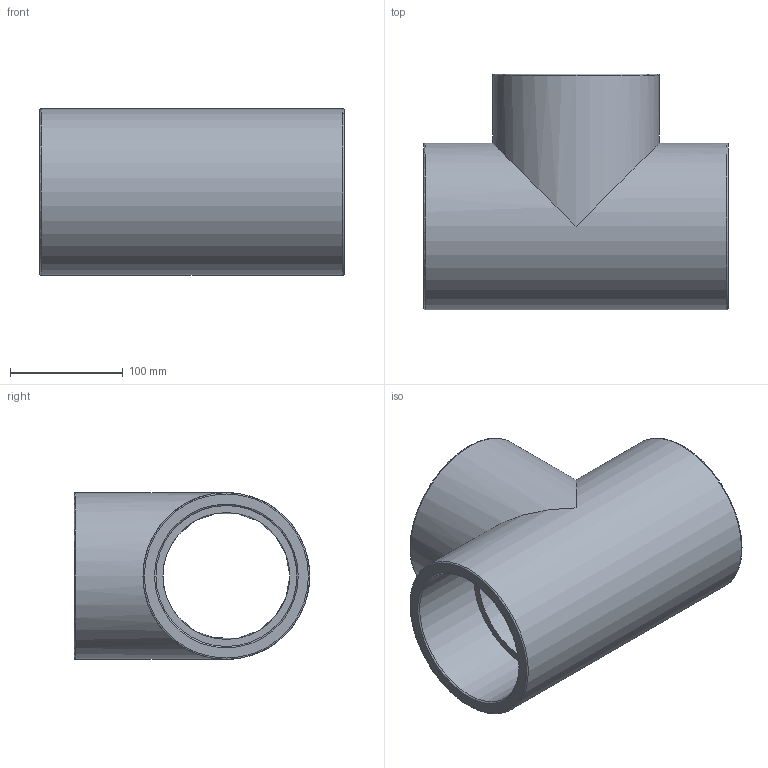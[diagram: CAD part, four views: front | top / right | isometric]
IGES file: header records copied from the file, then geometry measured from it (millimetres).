
Global section: file name: 050400125.ipt; native system: Autodesk Inventor 2015; preprocessor: unknown; author: KIM; date: 20171207.164442; units: millimetre
Bounding box: 270 x 209 x 148 mm (x, y, z)
Volume: 1852079.9 mm3; surface area: 290863.4 mm2
Topology: 1 solids, 1 shells, 19 faces, 60 edges, 46 vertices
Faces by surface type: revolution 11, plane 6, cylinder 2
Full cylindrical faces by diameter (mm): 148 x2
